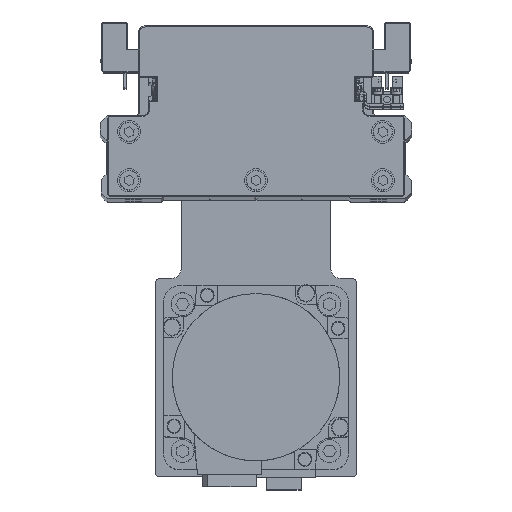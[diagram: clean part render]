
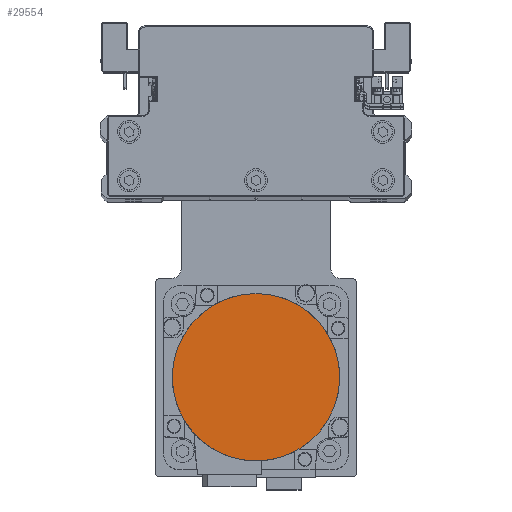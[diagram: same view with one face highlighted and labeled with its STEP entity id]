
A CAD part, top view. The second image highlights one B-rep face of the part: STEP entity #29554.
In plain terms, the highlighted planar face has unit normal (0, 0, 1) as drawn and (0, 0, -1) by its records, which use the part's own axes.
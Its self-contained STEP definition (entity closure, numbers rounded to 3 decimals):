
#5587 = CIRCLE ( 'NONE', #28232, 36.3 ) ;
#6204 = ORIENTED_EDGE ( 'NONE', *, *, #9875, .F. ) ;
#7023 = DIRECTION ( 'NONE',  ( 0., 0., 1. ) ) ;
#7615 = DIRECTION ( 'NONE',  ( 0., 1., 0. ) ) ;
#7975 = DIRECTION ( 'NONE',  ( 0., 0., 1. ) ) ;
#9875 = EDGE_CURVE ( 'NONE', #20414, #23642, #5587, .T. ) ;
#10048 = FACE_OUTER_BOUND ( 'NONE', #18298, .T. ) ;
#14328 = CARTESIAN_POINT ( 'NONE',  ( 0., 36.3, -122.2 ) ) ;
#15030 = AXIS2_PLACEMENT_3D ( 'NONE', #35707, #7975, #20322 ) ;
#16162 = ORIENTED_EDGE ( 'NONE', *, *, #23177, .F. ) ;
#18298 = EDGE_LOOP ( 'NONE', ( #6204, #16162 ) ) ;
#19376 = DIRECTION ( 'NONE',  ( 1., 0., 0. ) ) ;
#20322 = DIRECTION ( 'NONE',  ( 0., -1., 0. ) ) ;
#20414 = VERTEX_POINT ( 'NONE', #14328 ) ;
#22410 = PLANE ( 'NONE',  #36815 ) ;
#22988 = CARTESIAN_POINT ( 'NONE',  ( 0., 0., -122.2 ) ) ;
#23177 = EDGE_CURVE ( 'NONE', #23642, #20414, #32486, .T. ) ;
#23642 = VERTEX_POINT ( 'NONE', #26962 ) ;
#26962 = CARTESIAN_POINT ( 'NONE',  ( 0., -36.3, -122.2 ) ) ;
#28232 = AXIS2_PLACEMENT_3D ( 'NONE', #22988, #35338, #7615 ) ;
#29554 = ADVANCED_FACE ( 'NONE', ( #10048 ), #22410, .F. ) ;
#32486 = CIRCLE ( 'NONE', #15030, 36.3 ) ;
#34748 = CARTESIAN_POINT ( 'NONE',  ( 0., 0., -122.2 ) ) ;
#35338 = DIRECTION ( 'NONE',  ( 0., 0., 1. ) ) ;
#35707 = CARTESIAN_POINT ( 'NONE',  ( 0., 0., -122.2 ) ) ;
#36815 = AXIS2_PLACEMENT_3D ( 'NONE', #34748, #7023, #19376 ) ;
